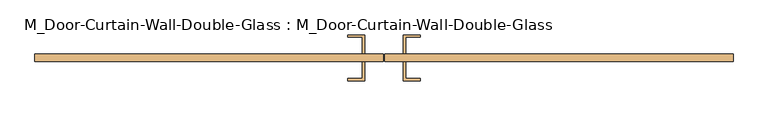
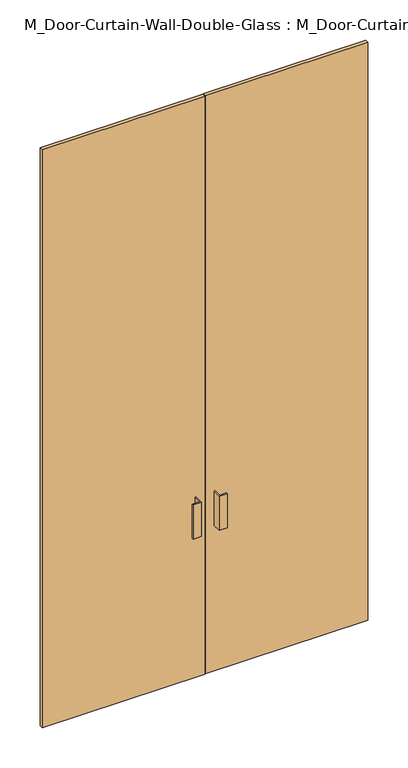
"""IFC4 building model written with IfcOpenShell, lengths in millimetres: door geometry, M_Door-Curtain-Wall-Double-Glass : M_Door-Curtain-Wall-Double-Glass."""

from ifc_helpers import new_model, si_unit, frame, origin, origin_with_axes, place, context, project, spatial, polyline, outline, extrude, source, transform, mapped, element, save


def m_door_curtain_wall_double_glass_m_door_curtain_wall_double_733e1639(model_context):
    return source(origin(), model_context, "Body", "SweptSolid", [
        extrude(outline(polyline([(-1.5643999, 31.75), (-912.5, 31.75), (-912.5, 50.8), (-1.5643999, 50.8), (-1.5643999, 31.75)])), origin_with_axes(), (0.0, 0.0, 1.0), 3425.0),
        extrude(outline(polyline([(912.5, 31.75), (1.6106001, 31.75), (1.6106001, 50.8), (912.5, 50.8), (912.5, 31.75)])), origin_with_axes(), (0.0, 0.0, 1.0), 3425.0),
        extrude(outline(polyline([(-50.7768999, 101.6), (-50.7768999, 50.8), (-57.1268999, 50.8), (-57.1268999, 95.25), (-95.2268999, 95.25), (-95.2268999, 101.6), (-50.7768999, 101.6)])), frame((0.0, 0.0, 863.6), z_axis=(0.0, 0.0, 1.0), x_axis=(1.0, 0.0, 0.0)), (0.0, 0.0, 1.0), 203.2),
        extrude(outline(polyline([(50.8231001, 101.6), (95.2731001, 101.6), (95.2731001, 95.25), (57.1731001, 95.25), (57.1731001, 50.8), (50.8231001, 50.8), (50.8231001, 101.6)])), frame((0.0, 0.0, 863.6), z_axis=(0.0, 0.0, 1.0), x_axis=(1.0, 0.0, 0.0)), (0.0, 0.0, 1.0), 203.2),
        extrude(outline(polyline([(-50.7768999, -19.05), (-95.2268999, -19.05), (-95.2268999, -12.7), (-57.1268999, -12.7), (-57.1268999, 31.75), (-50.7768999, 31.75), (-50.7768999, -19.05)])), frame((0.0, 0.0, 863.6), z_axis=(0.0, 0.0, 1.0), x_axis=(1.0, 0.0, 0.0)), (0.0, 0.0, 1.0), 203.2),
        extrude(outline(polyline([(50.8231001, -19.05), (50.8231001, 31.75), (57.1731001, 31.75), (57.1731001, -12.7), (95.2731001, -12.7), (95.2731001, -19.05), (50.8231001, -19.05)])), frame((0.0, 0.0, 863.6), z_axis=(0.0, 0.0, 1.0), x_axis=(1.0, 0.0, 0.0)), (0.0, 0.0, 1.0), 203.2),
    ])


if __name__ == "__main__":
    model = new_model("IFC4")
    model_context = context("Model", 3, world=origin())
    ifc_project = project(units=[si_unit("LENGTHUNIT", "METRE", prefix="MILLI")], contexts=[model_context])
    site = spatial("IfcSite", under=ifc_project)
    building = spatial("IfcBuilding", under=site)
    placement = place(None, origin())
    m_door_curtain_wall_double_glass_m_door_curtain_wall_double_shape = m_door_curtain_wall_double_glass_m_door_curtain_wall_double_733e1639(model_context)
    element("IfcDoor", 1, ObjectType="M_Door-Curtain-Wall-Double-Glass : M_Door-Curtain-Wall-Double-Glass", at=placement, inside=building, context=model_context, shape_type="MappedRepresentation", body=[
        mapped(m_door_curtain_wall_double_glass_m_door_curtain_wall_double_shape, transform((0.0, 0.0, 0.0), x_axis=(1.0, 0.0, 0.0), y_axis=(0.0, 1.0, 0.0), z_axis=(0.0, 0.0, 1.0))),
    ])
    save(model, "model.ifc")
